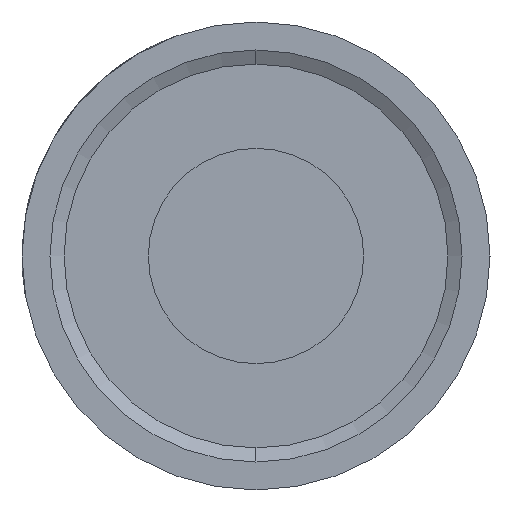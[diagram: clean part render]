
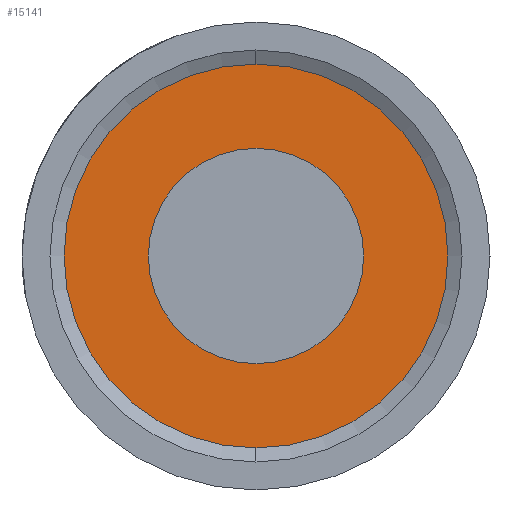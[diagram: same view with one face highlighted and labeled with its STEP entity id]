
A CAD part, left-side view. The second image highlights one B-rep face of the part: STEP entity #15141.
In plain terms, the highlighted planar face has unit normal (-1, 0, 0).
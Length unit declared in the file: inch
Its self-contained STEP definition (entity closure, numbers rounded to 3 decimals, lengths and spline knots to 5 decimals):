
#43 = CARTESIAN_POINT ( 'NONE',  ( 0., 0., 0. ) ) ;
#159 = CARTESIAN_POINT ( 'NONE',  ( 0., 0., 0. ) ) ;
#347 = DIRECTION ( 'NONE',  ( 0., 0., 1. ) ) ;
#1411 = AXIS2_PLACEMENT_3D ( 'NONE', #43, #3486, #7868 ) ;
#1435 = ORIENTED_EDGE ( 'NONE', *, *, #11717, .T. ) ;
#1542 = EDGE_CURVE ( 'NONE', #11316, #10431, #17144, .T. ) ;
#1770 = DIRECTION ( 'NONE',  ( 1., 0., 0. ) ) ;
#2255 = CIRCLE ( 'NONE', #17976, 0.1025 ) ;
#3347 = CARTESIAN_POINT ( 'NONE',  ( 0., 0., 0. ) ) ;
#3486 = DIRECTION ( 'NONE',  ( -1., 0., 0. ) ) ;
#3622 = DIRECTION ( 'NONE',  ( 0., 0., 1. ) ) ;
#4715 = CARTESIAN_POINT ( 'NONE',  ( 0., 0., -0.1025 ) ) ;
#4932 = VERTEX_POINT ( 'NONE', #16608 ) ;
#4943 = CARTESIAN_POINT ( 'NONE',  ( 0., 0., 0. ) ) ;
#5352 = CIRCLE ( 'NONE', #7956, 0.1025 ) ;
#6847 = DIRECTION ( 'NONE',  ( -1., 0., 0. ) ) ;
#7108 = ORIENTED_EDGE ( 'NONE', *, *, #7853, .T. ) ;
#7109 = CARTESIAN_POINT ( 'NONE',  ( 0., 0., -0.0575 ) ) ;
#7853 = EDGE_CURVE ( 'NONE', #19696, #4932, #2255, .T. ) ;
#7868 = DIRECTION ( 'NONE',  ( 0., 0., 1. ) ) ;
#7956 = AXIS2_PLACEMENT_3D ( 'NONE', #159, #6847, #3622 ) ;
#8058 = AXIS2_PLACEMENT_3D ( 'NONE', #17219, #9619, #19030 ) ;
#8734 = CIRCLE ( 'NONE', #1411, 0.0575 ) ;
#9589 = CARTESIAN_POINT ( 'NONE',  ( 0., 0., 0.0575 ) ) ;
#9619 = DIRECTION ( 'NONE',  ( -1., 0., 0. ) ) ;
#9846 = DIRECTION ( 'NONE',  ( -1., 0., 0. ) ) ;
#10431 = VERTEX_POINT ( 'NONE', #7109 ) ;
#11316 = VERTEX_POINT ( 'NONE', #9589 ) ;
#11717 = EDGE_CURVE ( 'NONE', #4932, #19696, #5352, .T. ) ;
#12486 = ORIENTED_EDGE ( 'NONE', *, *, #1542, .F. ) ;
#13518 = ORIENTED_EDGE ( 'NONE', *, *, #19522, .F. ) ;
#14000 = EDGE_LOOP ( 'NONE', ( #1435, #7108 ) ) ;
#14566 = FACE_BOUND ( 'NONE', #16009, .T. ) ;
#14671 = PLANE ( 'NONE',  #18719 ) ;
#15141 = ADVANCED_FACE ( 'NONE', ( #14566, #15840 ), #14671, .F. ) ;
#15840 = FACE_OUTER_BOUND ( 'NONE', #14000, .T. ) ;
#16009 = EDGE_LOOP ( 'NONE', ( #12486, #13518 ) ) ;
#16608 = CARTESIAN_POINT ( 'NONE',  ( 0., 0., 0.1025 ) ) ;
#17144 = CIRCLE ( 'NONE', #8058, 0.0575 ) ;
#17219 = CARTESIAN_POINT ( 'NONE',  ( 0., 0., 0. ) ) ;
#17716 = DIRECTION ( 'NONE',  ( 0., 0., -1. ) ) ;
#17976 = AXIS2_PLACEMENT_3D ( 'NONE', #4943, #9846, #347 ) ;
#18719 = AXIS2_PLACEMENT_3D ( 'NONE', #3347, #1770, #17716 ) ;
#19030 = DIRECTION ( 'NONE',  ( 0., 0., 1. ) ) ;
#19522 = EDGE_CURVE ( 'NONE', #10431, #11316, #8734, .T. ) ;
#19696 = VERTEX_POINT ( 'NONE', #4715 ) ;
